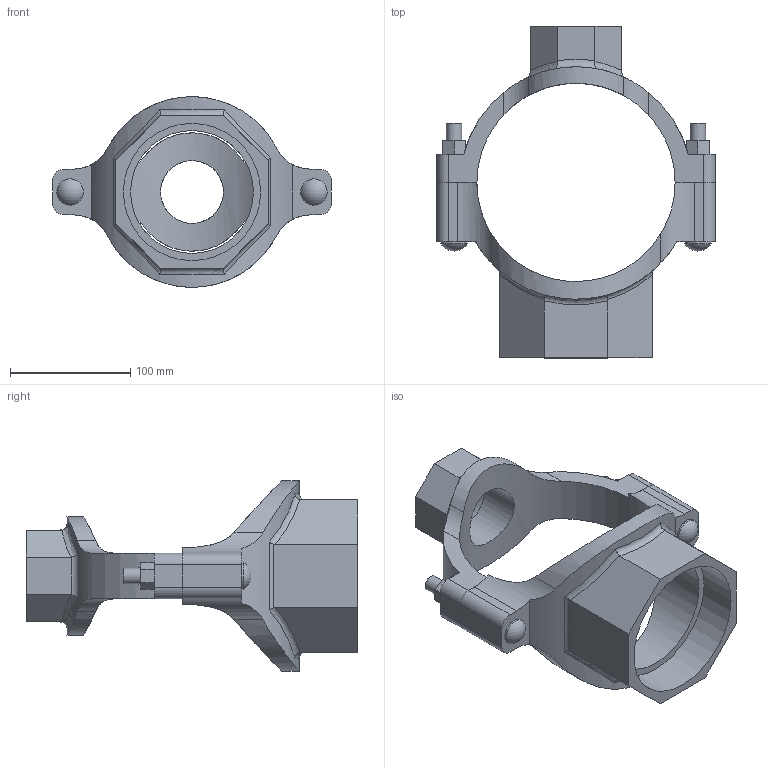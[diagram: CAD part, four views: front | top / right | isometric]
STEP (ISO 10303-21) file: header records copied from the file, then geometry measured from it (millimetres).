
FILE_DESCRIPTION(/* description */ ('VIC MECH-T BRANCH OUTLET CROSS STYLE 920N (THD)','CAx-IF Rec.Pracs.---Representation and Presentation of Product Manufacturing Information (PMI)---4.0---2014-10-13'),/* implementation_level */ '2;1');
FILE_NAME(/* name */ 'C:\Users\Vjadhav\AppData\Roaming\Autodesk\ApplicationPlugins\Back Up\Victaulic_IPS_Mechanical-Cross Outlet_Style 920N (FPT)\Victaulic_IPS_Mechanical-Cross Outlet_06.0 (165.1)x02.0x04.0 (150x50x100).stp',/* time_stamp */ '2020-08-06T19:00:17+06:00',/* author */ ('Vjadhav'),/* organization */ ('Victaulic'),/* preprocessor_version */ 'ST-DEVELOPER v17.2',/* originating_system */ 'Autodesk Inventor 2019',/* authorisation */ '');
FILE_SCHEMA (('AP242_MANAGED_MODEL_BASED_3D_ENGINEERING_MIM_LF { 1 0 10303 442 1 1 4 }'));
Length unit declared in the file: inch
Products named in the file (3): 920NT-06.0 (165.1)x02.0x04.0; 920NT-06.0 (165.1)x02.0x02.5 (76.1); 920T-06.0 (165.1)x04.0
Assembly tree (2 placements, depth 2):
  920NT-06.0 (165.1)x02.0x04.0
    920NT-06.0 (165.1)x02.0x02.5 (76.1)
    920T-06.0 (165.1)x04.0
Bounding box: 231.9 x 276.35 x 158.7 mm (x, y, z)
Volume: 875992.2 mm3; surface area: 179723.4 mm2
Topology: 2 solids, 2 shells, 130 faces, 344 edges, 232 vertices
Faces by surface type: plane 68, cylinder 48, bspline 8, torus 4, sphere 2
Full cylindrical faces by diameter (mm): 12.7 x4, 21.982 x2, 52.387 x1, 60.325 x1, 102.394 x1, 114.3 x1
Entity records: 5152 total; most frequent: CARTESIAN_POINT 1693, ORIENTED_EDGE 688, DIRECTION 638, EDGE_CURVE 344, VERTEX_POINT 232, AXIS2_PLACEMENT_3D 227, LINE 184, VECTOR 184
